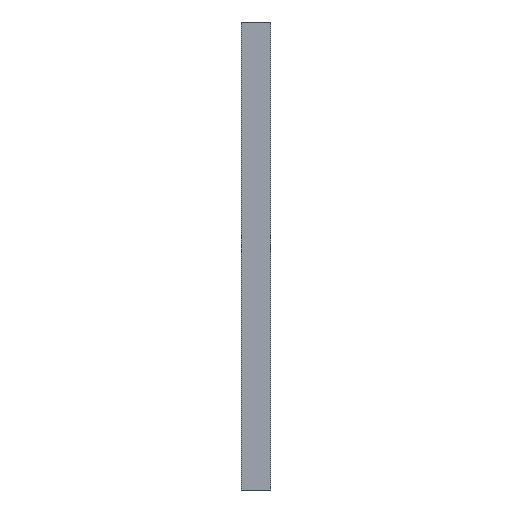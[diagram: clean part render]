
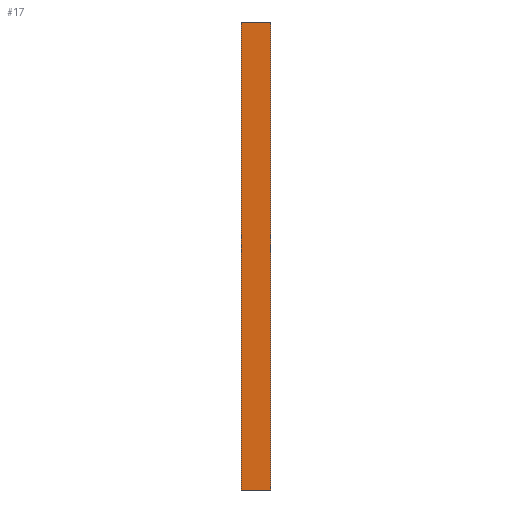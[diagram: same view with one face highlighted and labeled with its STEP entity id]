
A CAD part, left-side view. The second image highlights one B-rep face of the part: STEP entity #17.
In plain terms, the highlighted planar face has unit normal (-1, 0, 0).
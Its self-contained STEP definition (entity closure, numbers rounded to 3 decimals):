
#17 = ADVANCED_FACE('',(#18),#32,.F.);
#18 = FACE_BOUND('',#19,.F.);
#19 = EDGE_LOOP('',(#20,#55,#83,#111));
#20 = ORIENTED_EDGE('',*,*,#21,.F.);
#21 = EDGE_CURVE('',#22,#24,#26,.T.);
#22 = VERTEX_POINT('',#23);
#23 = CARTESIAN_POINT('',(-24.,0.,-24.));
#24 = VERTEX_POINT('',#25);
#25 = CARTESIAN_POINT('',(-24.,0.,24.));
#26 = SURFACE_CURVE('',#27,(#31,#43),.PCURVE_S1.);
#27 = LINE('',#28,#29);
#28 = CARTESIAN_POINT('',(-24.,0.,-24.));
#29 = VECTOR('',#30,1.);
#30 = DIRECTION('',(0.,0.,1.));
#31 = PCURVE('',#32,#37);
#32 = PLANE('',#33);
#33 = AXIS2_PLACEMENT_3D('',#34,#35,#36);
#34 = CARTESIAN_POINT('',(-24.,0.,-24.));
#35 = DIRECTION('',(1.,0.,-0.));
#36 = DIRECTION('',(0.,0.,1.));
#37 = DEFINITIONAL_REPRESENTATION('',(#38),#42);
#38 = LINE('',#39,#40);
#39 = CARTESIAN_POINT('',(0.,0.));
#40 = VECTOR('',#41,1.);
#41 = DIRECTION('',(1.,0.));
#42 = ( GEOMETRIC_REPRESENTATION_CONTEXT(2) 
PARAMETRIC_REPRESENTATION_CONTEXT() REPRESENTATION_CONTEXT('2D SPACE',''
  ) );
#43 = PCURVE('',#44,#49);
#44 = PLANE('',#45);
#45 = AXIS2_PLACEMENT_3D('',#46,#47,#48);
#46 = CARTESIAN_POINT('',(-24.,0.,-24.));
#47 = DIRECTION('',(-0.,1.,0.));
#48 = DIRECTION('',(0.,0.,1.));
#49 = DEFINITIONAL_REPRESENTATION('',(#50),#54);
#50 = LINE('',#51,#52);
#51 = CARTESIAN_POINT('',(0.,0.));
#52 = VECTOR('',#53,1.);
#53 = DIRECTION('',(1.,0.));
#54 = ( GEOMETRIC_REPRESENTATION_CONTEXT(2) 
PARAMETRIC_REPRESENTATION_CONTEXT() REPRESENTATION_CONTEXT('2D SPACE',''
  ) );
#55 = ORIENTED_EDGE('',*,*,#56,.T.);
#56 = EDGE_CURVE('',#22,#57,#59,.T.);
#57 = VERTEX_POINT('',#58);
#58 = CARTESIAN_POINT('',(-24.,3.,-24.));
#59 = SURFACE_CURVE('',#60,(#64,#71),.PCURVE_S1.);
#60 = LINE('',#61,#62);
#61 = CARTESIAN_POINT('',(-24.,0.,-24.));
#62 = VECTOR('',#63,1.);
#63 = DIRECTION('',(-0.,1.,0.));
#64 = PCURVE('',#32,#65);
#65 = DEFINITIONAL_REPRESENTATION('',(#66),#70);
#66 = LINE('',#67,#68);
#67 = CARTESIAN_POINT('',(0.,0.));
#68 = VECTOR('',#69,1.);
#69 = DIRECTION('',(0.,-1.));
#70 = ( GEOMETRIC_REPRESENTATION_CONTEXT(2) 
PARAMETRIC_REPRESENTATION_CONTEXT() REPRESENTATION_CONTEXT('2D SPACE',''
  ) );
#71 = PCURVE('',#72,#77);
#72 = PLANE('',#73);
#73 = AXIS2_PLACEMENT_3D('',#74,#75,#76);
#74 = CARTESIAN_POINT('',(-24.,0.,-24.));
#75 = DIRECTION('',(0.,0.,1.));
#76 = DIRECTION('',(1.,0.,-0.));
#77 = DEFINITIONAL_REPRESENTATION('',(#78),#82);
#78 = LINE('',#79,#80);
#79 = CARTESIAN_POINT('',(0.,0.));
#80 = VECTOR('',#81,1.);
#81 = DIRECTION('',(0.,1.));
#82 = ( GEOMETRIC_REPRESENTATION_CONTEXT(2) 
PARAMETRIC_REPRESENTATION_CONTEXT() REPRESENTATION_CONTEXT('2D SPACE',''
  ) );
#83 = ORIENTED_EDGE('',*,*,#84,.T.);
#84 = EDGE_CURVE('',#57,#85,#87,.T.);
#85 = VERTEX_POINT('',#86);
#86 = CARTESIAN_POINT('',(-24.,3.,24.));
#87 = SURFACE_CURVE('',#88,(#92,#99),.PCURVE_S1.);
#88 = LINE('',#89,#90);
#89 = CARTESIAN_POINT('',(-24.,3.,-24.));
#90 = VECTOR('',#91,1.);
#91 = DIRECTION('',(0.,0.,1.));
#92 = PCURVE('',#32,#93);
#93 = DEFINITIONAL_REPRESENTATION('',(#94),#98);
#94 = LINE('',#95,#96);
#95 = CARTESIAN_POINT('',(0.,-3.));
#96 = VECTOR('',#97,1.);
#97 = DIRECTION('',(1.,0.));
#98 = ( GEOMETRIC_REPRESENTATION_CONTEXT(2) 
PARAMETRIC_REPRESENTATION_CONTEXT() REPRESENTATION_CONTEXT('2D SPACE',''
  ) );
#99 = PCURVE('',#100,#105);
#100 = PLANE('',#101);
#101 = AXIS2_PLACEMENT_3D('',#102,#103,#104);
#102 = CARTESIAN_POINT('',(-24.,3.,-24.));
#103 = DIRECTION('',(-0.,1.,0.));
#104 = DIRECTION('',(0.,0.,1.));
#105 = DEFINITIONAL_REPRESENTATION('',(#106),#110);
#106 = LINE('',#107,#108);
#107 = CARTESIAN_POINT('',(0.,0.));
#108 = VECTOR('',#109,1.);
#109 = DIRECTION('',(1.,0.));
#110 = ( GEOMETRIC_REPRESENTATION_CONTEXT(2) 
PARAMETRIC_REPRESENTATION_CONTEXT() REPRESENTATION_CONTEXT('2D SPACE',''
  ) );
#111 = ORIENTED_EDGE('',*,*,#112,.F.);
#112 = EDGE_CURVE('',#24,#85,#113,.T.);
#113 = SURFACE_CURVE('',#114,(#118,#125),.PCURVE_S1.);
#114 = LINE('',#115,#116);
#115 = CARTESIAN_POINT('',(-24.,0.,24.));
#116 = VECTOR('',#117,1.);
#117 = DIRECTION('',(-0.,1.,0.));
#118 = PCURVE('',#32,#119);
#119 = DEFINITIONAL_REPRESENTATION('',(#120),#124);
#120 = LINE('',#121,#122);
#121 = CARTESIAN_POINT('',(48.,0.));
#122 = VECTOR('',#123,1.);
#123 = DIRECTION('',(0.,-1.));
#124 = ( GEOMETRIC_REPRESENTATION_CONTEXT(2) 
PARAMETRIC_REPRESENTATION_CONTEXT() REPRESENTATION_CONTEXT('2D SPACE',''
  ) );
#125 = PCURVE('',#126,#131);
#126 = PLANE('',#127);
#127 = AXIS2_PLACEMENT_3D('',#128,#129,#130);
#128 = CARTESIAN_POINT('',(-24.,0.,24.));
#129 = DIRECTION('',(0.,0.,1.));
#130 = DIRECTION('',(1.,0.,-0.));
#131 = DEFINITIONAL_REPRESENTATION('',(#132),#136);
#132 = LINE('',#133,#134);
#133 = CARTESIAN_POINT('',(0.,0.));
#134 = VECTOR('',#135,1.);
#135 = DIRECTION('',(0.,1.));
#136 = ( GEOMETRIC_REPRESENTATION_CONTEXT(2) 
PARAMETRIC_REPRESENTATION_CONTEXT() REPRESENTATION_CONTEXT('2D SPACE',''
  ) );
